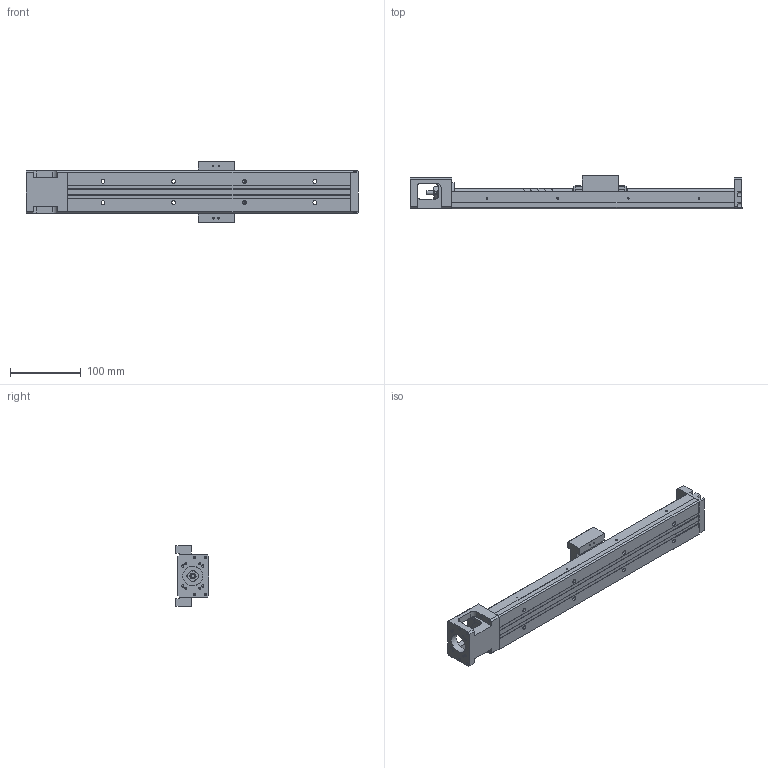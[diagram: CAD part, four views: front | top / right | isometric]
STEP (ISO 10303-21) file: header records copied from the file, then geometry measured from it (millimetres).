
FILE_DESCRIPTION(/* description */ (''),/* implementation_level */ '2;1');
FILE_NAME(/* name */ '33L-400.stp',/* time_stamp */ '2016-12-20T13:28:31+08:00',/* author */ (''),/* organization */ (''),/* preprocessor_version */ 'ST-DEVELOPER v11',/* originating_system */ 'SIEMENS UGS NX 6.0',/* authorisation */ '');
FILE_SCHEMA (('AUTOMOTIVE_DESIGN { 1 0 10303 214 1 1 1 1 }'));
Length unit declared in the file: millimetre
Products named in the file (1): model4
Bounding box: 470 x 47.95 x 86 mm (x, y, z)
Volume: 585982 mm3; surface area: 163594 mm2
Topology: 6 solids, 15 shells, 709 faces, 1783 edges, 1178 vertices
Faces by surface type: plane 420, cylinder 202, bspline 31, cone 24, extrusion 21, torus 9, revolution 2
Full cylindrical faces by diameter (mm): 1.6 x5, 1.65 x4, 2.15 x4, 2.42 x4, 2.45 x4, 2.5 x18, 3 x3, 3.2 x4, 3.3 x4, 3.4 x3, 3.5 x10, 3.969 x1, 4 x6, 4.001 x1, 4.135 x4, 4.2 x4, 5.5 x8, 6 x5, 7.6 x1, 8 x5, 9.5 x8, 10.72 x3, 11.8 x2, 12 x6, 12.8 x1, 13 x2, 14 x1, 17.38 x3, 21.5 x1, 22 x2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
Entity records: 36432 total; most frequent: CARTESIAN_POINT 16503, DIRECTION 3202, ORIENTED_EDGE 3082, EDGE_CURVE 1541, AXIS2_PLACEMENT_3D 1136, VERTEX_POINT 1099, EDGE_LOOP 1008, VECTOR 928
